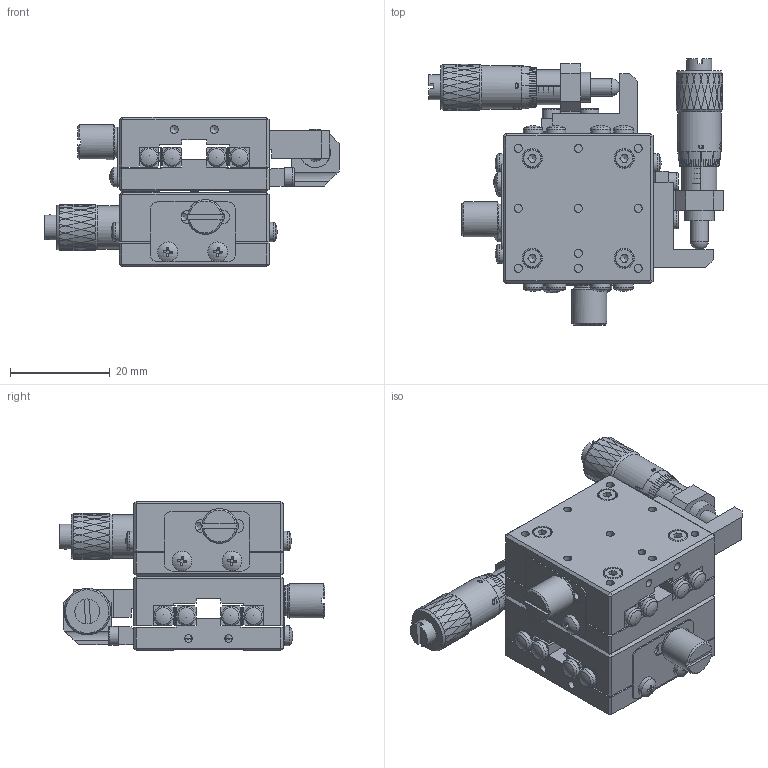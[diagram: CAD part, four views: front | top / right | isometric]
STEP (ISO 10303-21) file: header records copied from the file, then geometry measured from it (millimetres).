
FILE_DESCRIPTION (( 'STEP AP203' ), '1' );
FILE_NAME ('BPTB30.STEP', '2024-07-24T02:19:20', ( 'Windows User' ), ( 'P R C' ), 'SwSTEP 2.0', 'SolidWorks 2024', '' );
FILE_SCHEMA (( 'CONFIG_CONTROL_DESIGN' ));
Length unit declared in the file: millimetre
Products named in the file (1): BPTB30
Bounding box: 58.9 x 53.2 x 30 mm (x, y, z)
Volume: 28724.7 mm3; surface area: 30248.4 mm2
Topology: 62 solids, 62 shells, 2874 faces, 6934 edges, 4416 vertices
Faces by surface type: plane 1290, bspline 598, cylinder 558, cone 362, torus 62, sphere 4
Full cylindrical faces by diameter (mm): 1.5 x28, 1.6 x56, 1.65 x24, 2 x34, 2.05 x6, 2.1 x2, 2.2 x8, 2.3 x4, 2.4 x20, 2.9 x8, 3 x24, 3.5 x4, 3.8 x28, 3.9 x16, 4 x28, 5 x12, 6 x6, 7 x6, 8.7 x2
Entity records: 109227 total; most frequent: CARTESIAN_POINT 50969, ORIENTED_EDGE 12320, DIRECTION 9720, EDGE_CURVE 6160, VERTEX_POINT 4246, EDGE_LOOP 4010, AXIS2_PLACEMENT_3D 3627, FACE_OUTER_BOUND 3238
